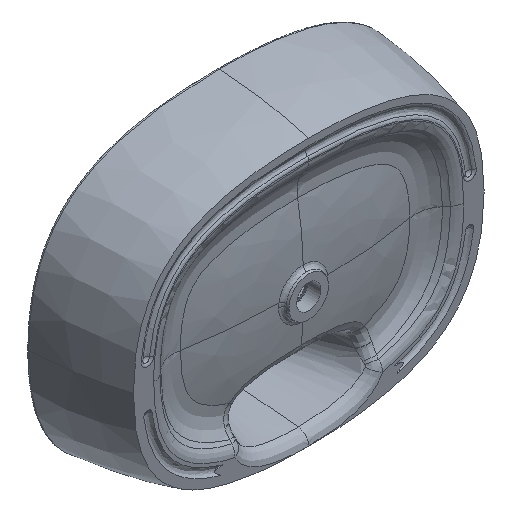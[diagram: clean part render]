
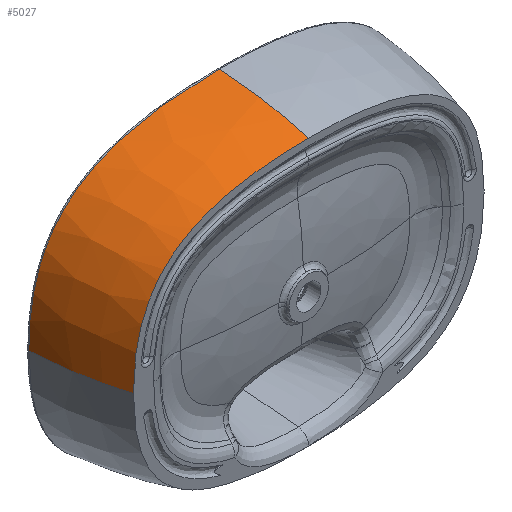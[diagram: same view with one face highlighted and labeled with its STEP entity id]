
A CAD part, isometric view. The second image highlights one B-rep face of the part: STEP entity #5027.
In plain terms, the highlighted free-form (B-spline) face has degree [3, 3] with [4, 9] control points.
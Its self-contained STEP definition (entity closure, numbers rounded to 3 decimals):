
#459=CARTESIAN_POINT('',(0.,0.,
175.));
#839=CARTESIAN_POINT('',(-230.,0.,
0.));
#870=CARTESIAN_POINT('',(-249.901,117.303,
0.));
#871=CARTESIAN_POINT('',(-248.324,77.565,
0.));
#872=CARTESIAN_POINT('',(-241.619,38.034,
0.));
#873=CARTESIAN_POINT('',(-230.,0.,
0.));
#875=CARTESIAN_POINT('',(0.,117.29,194.857));
#876=CARTESIAN_POINT('',(-15.6,117.29,194.857));
#877=CARTESIAN_POINT('',(-45.284,117.277,193.966));
#878=CARTESIAN_POINT('',(-85.14,117.255,189.795));
#879=CARTESIAN_POINT('',(-120.135,117.233,182.756));
#880=CARTESIAN_POINT('',(-150.319,117.206,172.919));
#881=CARTESIAN_POINT('',(-175.731,117.18,160.361));
#882=CARTESIAN_POINT('',(-195.59,117.169,146.222));
#883=CARTESIAN_POINT('',(-211.967,117.171,129.98));
#884=CARTESIAN_POINT('',(-225.277,117.201,111.261));
#885=CARTESIAN_POINT('',(-235.692,117.234,90.139));
#886=CARTESIAN_POINT('',(-243.801,117.268,64.439));
#887=CARTESIAN_POINT('',(-248.787,117.296,34.507));
#888=CARTESIAN_POINT('',(-249.901,117.303,11.957));
#889=CARTESIAN_POINT('',(-249.901,117.303,
0.));
#891=CARTESIAN_POINT('',(0.,117.29,194.857));
#892=CARTESIAN_POINT('',(0.,77.614,192.659));
#893=CARTESIAN_POINT('',(0.,38.188,185.985));
#894=CARTESIAN_POINT('',(0.,0.,
175.));
#896=CARTESIAN_POINT('',(-230.,0.,
0.));
#897=CARTESIAN_POINT('',(-230.,0.,16.875));
#898=CARTESIAN_POINT('',(-227.467,0.,48.092));
#899=CARTESIAN_POINT('',(-215.658,0.,
86.908));
#900=CARTESIAN_POINT('',(-195.858,0.,
117.733));
#901=CARTESIAN_POINT('',(-159.403,0.,
148.778));
#902=CARTESIAN_POINT('',(-96.87,0.,
170.62));
#903=CARTESIAN_POINT('',(-33.75,0.,175.));
#904=CARTESIAN_POINT('',(0.,0.,
175.));
#2892=VERTEX_POINT('',#459);
#2893=VERTEX_POINT('',#839);
#2907=VERTEX_POINT('',#870);
#2908=VERTEX_POINT('',#891);
#4984=CARTESIAN_POINT('',(-249.929,118.494,
-3.662));
#4985=CARTESIAN_POINT('',(-250.116,118.494,16.267));
#4986=CARTESIAN_POINT('',(-247.543,118.493,51.971));
#4987=CARTESIAN_POINT('',(-234.691,118.493,95.941));
#4988=CARTESIAN_POINT('',(-213.468,118.493,130.333));
#4989=CARTESIAN_POINT('',(-174.157,118.493,165.181));
#4990=CARTESIAN_POINT('',(-105.301,118.494,190.251));
#4991=CARTESIAN_POINT('',(-34.772,118.495,195.083));
#4992=CARTESIAN_POINT('',(3.679,118.496,194.914));
#4993=CARTESIAN_POINT('',(-248.425,77.958,
-3.589));
#4994=CARTESIAN_POINT('',(-248.616,77.951,15.943));
#4995=CARTESIAN_POINT('',(-245.982,77.939,50.981));
#4996=CARTESIAN_POINT('',(-232.957,77.928,94.246));
#4997=CARTESIAN_POINT('',(-211.581,77.924,128.201));
#4998=CARTESIAN_POINT('',(-172.201,77.926,162.765));
#4999=CARTESIAN_POINT('',(-103.685,77.949,187.927));
#5000=CARTESIAN_POINT('',(-34.123,77.99,192.938));
#5001=CARTESIAN_POINT('',(3.611,78.018,192.765));
#5002=CARTESIAN_POINT('',(-241.587,37.631,
-3.479));
#5003=CARTESIAN_POINT('',(-241.756,37.571,15.453));
#5004=CARTESIAN_POINT('',(-239.145,37.476,49.372));
#5005=CARTESIAN_POINT('',(-226.378,37.388,91.158));
#5006=CARTESIAN_POINT('',(-205.496,37.351,123.879));
#5007=CARTESIAN_POINT('',(-167.114,37.362,157.121));
#5008=CARTESIAN_POINT('',(-100.516,37.481,181.259));
#5009=CARTESIAN_POINT('',(-33.068,37.675,186.091));
#5010=CARTESIAN_POINT('',(3.499,37.794,185.958));
#5011=CARTESIAN_POINT('',(-229.632,-1.145,
-3.332));
#5012=CARTESIAN_POINT('',(-229.809,-1.144,
14.803));
#5013=CARTESIAN_POINT('',(-227.379,-1.141,
47.179));
#5014=CARTESIAN_POINT('',(-215.333,-1.138,
86.779));
#5015=CARTESIAN_POINT('',(-195.566,-1.137,
117.546));
#5016=CARTESIAN_POINT('',(-159.169,-1.137,
148.525));
#5017=CARTESIAN_POINT('',(-95.909,-1.141,
170.595));
#5018=CARTESIAN_POINT('',(-31.62,-1.147,
174.809));
#5019=CARTESIAN_POINT('',(3.345,-1.15,174.661));
#5020=B_SPLINE_SURFACE_WITH_KNOTS('',3,3,((#4984,#4985,#4986,#4987,#4988,#4989,
#4990,#4991,#4992),(#4993,#4994,#4995,#4996,#4997,#4998,#4999,#5000,#5001),(
#5002,#5003,#5004,#5005,#5006,#5007,#5008,#5009,#5010),(#5011,#5012,#5013,#5014,
#5015,#5016,#5017,#5018,#5019)),.UNSPECIFIED.,.F.,.F.,.F.,(4,4),(4,1,1,1,1,1,4),
(0.012,1.01),(-0.008,0.125,0.25,0.375,
0.5,0.75,1.008),.UNSPECIFIED.);
#5021=ORIENTED_EDGE('',*,*,#4976,.F.);
#5022=ORIENTED_EDGE('',*,*,#4443,.F.);
#5023=ORIENTED_EDGE('',*,*,#3628,.T.);
#5024=ORIENTED_EDGE('',*,*,#3538,.F.);
#5025=EDGE_LOOP('',(#5021,#5022,#5023,#5024));
#5026=FACE_OUTER_BOUND('',#5025,.F.);
#874=B_SPLINE_CURVE_WITH_KNOTS('',3,(#870,#871,#872,#873),.UNSPECIFIED.,.F.,.F.,
(4,4),(0.,1.),.UNSPECIFIED.);
#890=B_SPLINE_CURVE_WITH_KNOTS('',3,(#875,#876,#877,#878,#879,#880,#881,#882,
#883,#884,#885,#886,#887,#888,#889),.UNSPECIFIED.,.F.,.F.,(4,1,1,1,1,1,1,1,1,1,
1,1,4),(0.,0.083,0.167,0.25,0.333,
0.417,0.5,0.583,0.667,0.75,
0.833,0.917,1.),.UNSPECIFIED.);
#895=B_SPLINE_CURVE_WITH_KNOTS('',3,(#891,#892,#893,#894),.UNSPECIFIED.,.F.,.F.,
(4,4),(0.,1.),.UNSPECIFIED.);
#905=B_SPLINE_CURVE_WITH_KNOTS('',3,(#896,#897,#898,#899,#900,#901,#902,#903,
#904),.UNSPECIFIED.,.F.,.F.,(4,1,1,1,1,1,4),(0.,0.125,0.25,0.375,0.5,
0.75,1.),.UNSPECIFIED.);
#3538=EDGE_CURVE('',#2893,#2892,#905,.T.);
#3628=EDGE_CURVE('',#2908,#2892,#895,.T.);
#4443=EDGE_CURVE('',#2908,#2907,#890,.T.);
#4976=EDGE_CURVE('',#2907,#2893,#874,.T.);
#5027=ADVANCED_FACE('',(#5026),#5020,.T.);
